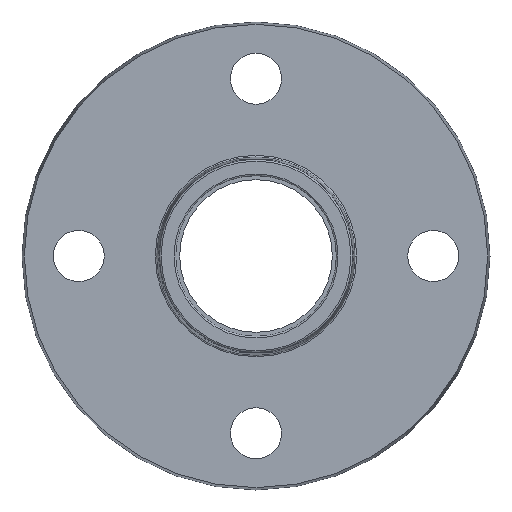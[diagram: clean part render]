
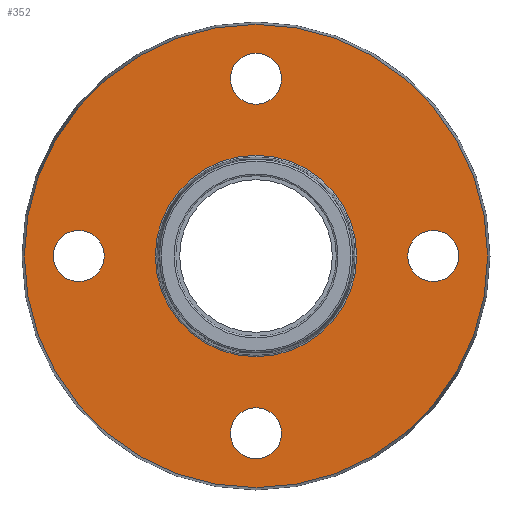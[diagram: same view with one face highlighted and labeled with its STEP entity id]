
A CAD part, left-side view. The second image highlights one B-rep face of the part: STEP entity #352.
In plain terms, the highlighted planar face has unit normal (-1, 0, 0).
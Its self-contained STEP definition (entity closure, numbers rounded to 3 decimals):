
#29=PLANE('',#409);
#56=FACE_BOUND('',#142,.T.);
#57=FACE_BOUND('',#143,.T.);
#58=FACE_BOUND('',#144,.T.);
#59=FACE_BOUND('',#145,.T.);
#60=FACE_BOUND('',#146,.T.);
#88=FACE_OUTER_BOUND('',#141,.T.);
#141=EDGE_LOOP('',(#301));
#142=EDGE_LOOP('',(#302));
#143=EDGE_LOOP('',(#303));
#144=EDGE_LOOP('',(#304));
#145=EDGE_LOOP('',(#305));
#146=EDGE_LOOP('',(#306));
#185=CIRCLE('',#408,35.497);
#186=CIRCLE('',#410,81.675);
#187=CIRCLE('',#411,9.);
#188=CIRCLE('',#412,9.);
#189=CIRCLE('',#413,9.);
#190=CIRCLE('',#414,9.);
#217=VERTEX_POINT('',#617);
#218=VERTEX_POINT('',#620);
#219=VERTEX_POINT('',#622);
#220=VERTEX_POINT('',#624);
#221=VERTEX_POINT('',#626);
#222=VERTEX_POINT('',#628);
#249=EDGE_CURVE('',#217,#217,#185,.T.);
#250=EDGE_CURVE('',#218,#218,#186,.T.);
#251=EDGE_CURVE('',#219,#219,#187,.T.);
#252=EDGE_CURVE('',#220,#220,#188,.T.);
#253=EDGE_CURVE('',#221,#221,#189,.T.);
#254=EDGE_CURVE('',#222,#222,#190,.T.);
#301=ORIENTED_EDGE('',*,*,#250,.T.);
#302=ORIENTED_EDGE('',*,*,#251,.T.);
#303=ORIENTED_EDGE('',*,*,#252,.T.);
#304=ORIENTED_EDGE('',*,*,#253,.T.);
#305=ORIENTED_EDGE('',*,*,#254,.T.);
#306=ORIENTED_EDGE('',*,*,#249,.F.);
#352=ADVANCED_FACE('',(#88,#56,#57,#58,#59,#60),#29,.T.);
#408=AXIS2_PLACEMENT_3D('',#618,#517,#518);
#409=AXIS2_PLACEMENT_3D('',#619,#519,#520);
#410=AXIS2_PLACEMENT_3D('',#621,#521,#522);
#411=AXIS2_PLACEMENT_3D('',#623,#523,#524);
#412=AXIS2_PLACEMENT_3D('',#625,#525,#526);
#413=AXIS2_PLACEMENT_3D('',#627,#527,#528);
#414=AXIS2_PLACEMENT_3D('',#629,#529,#530);
#517=DIRECTION('center_axis',(-1.,0.,0.));
#518=DIRECTION('ref_axis',(0.,1.,0.));
#519=DIRECTION('center_axis',(-1.,0.,0.));
#520=DIRECTION('ref_axis',(0.,0.,1.));
#521=DIRECTION('center_axis',(-1.,0.,0.));
#522=DIRECTION('ref_axis',(0.,0.,1.));
#523=DIRECTION('center_axis',(1.,0.,0.));
#524=DIRECTION('ref_axis',(0.,0.,1.));
#525=DIRECTION('center_axis',(1.,0.,0.));
#526=DIRECTION('ref_axis',(0.,1.,0.));
#527=DIRECTION('center_axis',(1.,0.,0.));
#528=DIRECTION('ref_axis',(0.,0.,-1.));
#529=DIRECTION('center_axis',(1.,0.,0.));
#530=DIRECTION('ref_axis',(0.,-1.,0.));
#617=CARTESIAN_POINT('',(1.5,-35.497,0.));
#618=CARTESIAN_POINT('Origin',(1.5,0.,0.));
#619=CARTESIAN_POINT('Origin',(1.5,-34.956,0.));
#620=CARTESIAN_POINT('',(1.5,-81.675,0.));
#621=CARTESIAN_POINT('Origin',(1.5,0.,0.));
#622=CARTESIAN_POINT('',(1.5,62.5,-9.));
#623=CARTESIAN_POINT('Origin',(1.5,62.5,0.));
#624=CARTESIAN_POINT('',(1.5,-9.,-62.5));
#625=CARTESIAN_POINT('Origin',(1.5,0.,-62.5));
#626=CARTESIAN_POINT('',(1.5,-62.5,9.));
#627=CARTESIAN_POINT('Origin',(1.5,-62.5,0.));
#628=CARTESIAN_POINT('',(1.5,9.,62.5));
#629=CARTESIAN_POINT('Origin',(1.5,0.,62.5));
